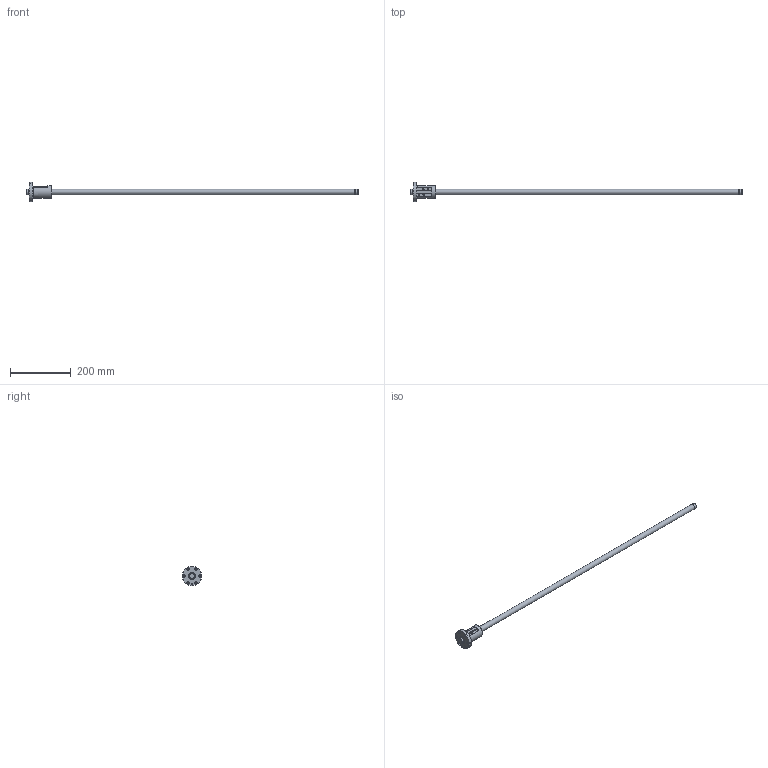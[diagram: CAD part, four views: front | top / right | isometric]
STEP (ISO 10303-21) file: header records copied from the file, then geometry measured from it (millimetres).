
FILE_DESCRIPTION( ( 'STEP AP203' ), ' ' );
FILE_NAME( 'p:/temp/worker_16/3916_4020/app_77_12018011811164070443176818fa3fd_000000_00_00_000000/format_0/BIF1810-3RRG0+1095LC3_10000.stp', '2018-01-18T10:16:41', ( '' ), ( '' ), ' ', 'PARTsolutions', ' ' );
FILE_SCHEMA( ( 'CONFIG_CONTROL_DESIGN' ) );
Length unit declared in the file: millimetre
Products named in the file (3): BIF1810-3RRG0+1095LC3_10000; _BIF 1810-3RR1000500 Shaft; _BIF 1810-3RR Nut
Assembly tree (2 placements, depth 2):
  BIF1810-3RRG0+1095LC3_10000
    _BIF 1810-3RR1000500 Shaft
    _BIF 1810-3RR Nut
Bounding box: 1095 x 65 x 65 mm (x, y, z)
Volume: 375359.5 mm3; surface area: 86146.6 mm2
Topology: 2 solids, 2 shells, 82 faces, 178 edges, 113 vertices
Faces by surface type: cylinder 39, plane 31, cone 8, torus 4
Full cylindrical faces by diameter (mm): 3.25 x2, 3.8 x4, 4.917 x1, 5.5 x6, 9.5 x6, 17.5 x2, 18 x4, 25.2 x2, 42 x1, 65 x1
Entity records: 2402 total; most frequent: CARTESIAN_POINT 611, DIRECTION 376, ORIENTED_EDGE 262, AXIS2_PLACEMENT_3D 172, EDGE_LOOP 156, EDGE_CURVE 131, FACE_OUTER_BOUND 111, VERTEX_POINT 103
